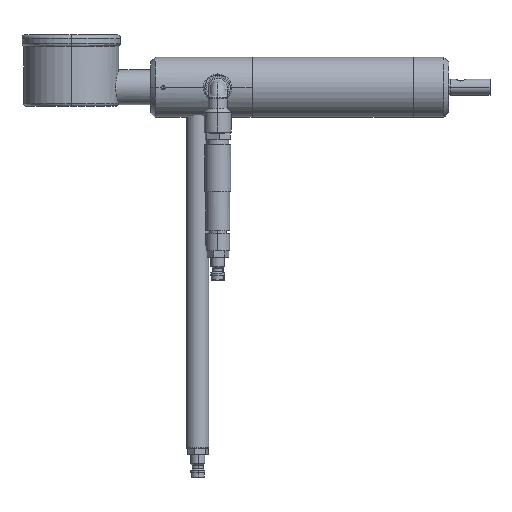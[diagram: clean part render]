
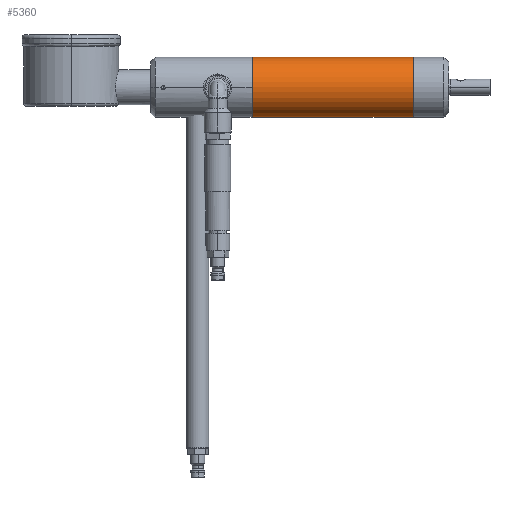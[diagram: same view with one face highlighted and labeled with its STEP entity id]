
A CAD part, left-side view. The second image highlights one B-rep face of the part: STEP entity #5360.
In plain terms, the highlighted cylindrical face has radius 19 mm (diameter 38 mm), a partial arc.
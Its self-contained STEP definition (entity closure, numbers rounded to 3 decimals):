
#124 = LINE ( 'NONE', #8099, #7330 ) ;
#133 = EDGE_CURVE ( 'NONE', #2051, #5438, #124, .T. ) ;
#158 = AXIS2_PLACEMENT_3D ( 'NONE', #1959, #6848, #2645 ) ;
#235 = DIRECTION ( 'NONE',  ( 0., 0., -1. ) ) ;
#343 = LINE ( 'NONE', #8335, #3854 ) ;
#628 = DIRECTION ( 'NONE',  ( 0., -1., 0. ) ) ;
#893 = CARTESIAN_POINT ( 'NONE',  ( 0., 112., -19. ) ) ;
#1617 = EDGE_LOOP ( 'NONE', ( #8195, #6054, #6758, #3236 ) ) ;
#1717 = CARTESIAN_POINT ( 'NONE',  ( 0., 11., -19. ) ) ;
#1877 = AXIS2_PLACEMENT_3D ( 'NONE', #2355, #7247, #235 ) ;
#1959 = CARTESIAN_POINT ( 'NONE',  ( 0., 112., 0. ) ) ;
#2051 = VERTEX_POINT ( 'NONE', #893 ) ;
#2355 = CARTESIAN_POINT ( 'NONE',  ( 0., 127.5, 0. ) ) ;
#2645 = DIRECTION ( 'NONE',  ( 0., 0., 1. ) ) ;
#3033 = EDGE_CURVE ( 'NONE', #4615, #5438, #7875, .T. ) ;
#3105 = DIRECTION ( 'NONE',  ( 0., -1., 0. ) ) ;
#3236 = ORIENTED_EDGE ( 'NONE', *, *, #3033, .F. ) ;
#3473 = CYLINDRICAL_SURFACE ( 'NONE', #1877, 19. ) ;
#3486 = DIRECTION ( 'NONE',  ( 0., -1., 0. ) ) ;
#3854 = VECTOR ( 'NONE', #628, 1000. ) ;
#4615 = VERTEX_POINT ( 'NONE', #5584 ) ;
#4866 = CARTESIAN_POINT ( 'NONE',  ( 0., 112., 19. ) ) ;
#5116 = EDGE_CURVE ( 'NONE', #2051, #5672, #5899, .T. ) ;
#5360 = ADVANCED_FACE ( 'NONE', ( #7407 ), #3473, .T. ) ;
#5438 = VERTEX_POINT ( 'NONE', #1717 ) ;
#5584 = CARTESIAN_POINT ( 'NONE',  ( 0., 11., 19. ) ) ;
#5672 = VERTEX_POINT ( 'NONE', #4866 ) ;
#5740 = AXIS2_PLACEMENT_3D ( 'NONE', #7674, #3486, #8391 ) ;
#5899 = CIRCLE ( 'NONE', #158, 19. ) ;
#6054 = ORIENTED_EDGE ( 'NONE', *, *, #5116, .F. ) ;
#6758 = ORIENTED_EDGE ( 'NONE', *, *, #133, .T. ) ;
#6848 = DIRECTION ( 'NONE',  ( 0., 1., 0. ) ) ;
#7247 = DIRECTION ( 'NONE',  ( 0., -1., 0. ) ) ;
#7330 = VECTOR ( 'NONE', #3105, 1000. ) ;
#7407 = FACE_OUTER_BOUND ( 'NONE', #1617, .T. ) ;
#7674 = CARTESIAN_POINT ( 'NONE',  ( 0., 11., 0. ) ) ;
#7875 = CIRCLE ( 'NONE', #5740, 19. ) ;
#8099 = CARTESIAN_POINT ( 'NONE',  ( 0., 127.5, -19. ) ) ;
#8195 = ORIENTED_EDGE ( 'NONE', *, *, #8506, .F. ) ;
#8335 = CARTESIAN_POINT ( 'NONE',  ( 0., 127.5, 19. ) ) ;
#8391 = DIRECTION ( 'NONE',  ( 0., 0., -1. ) ) ;
#8506 = EDGE_CURVE ( 'NONE', #5672, #4615, #343, .T. ) ;
